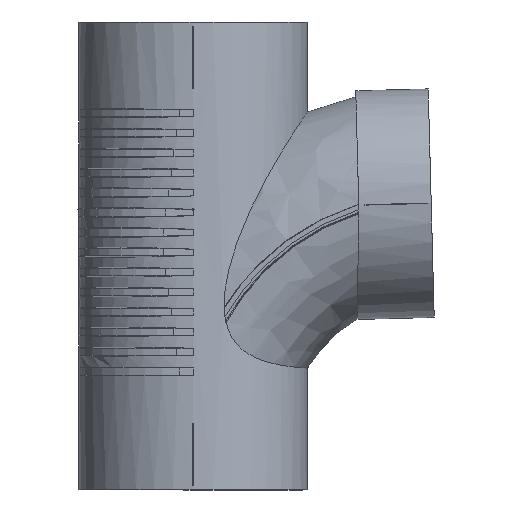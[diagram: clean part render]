
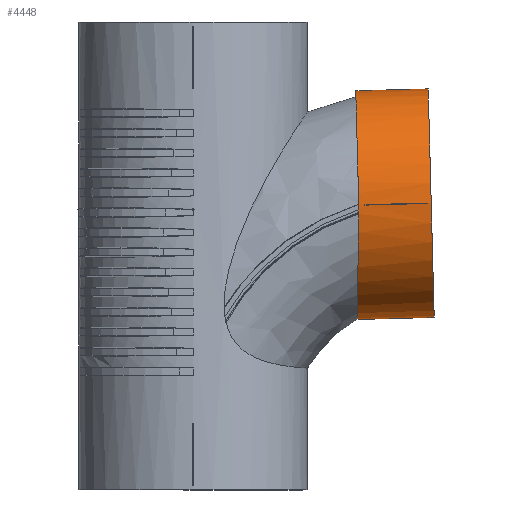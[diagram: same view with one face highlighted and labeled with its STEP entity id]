
A CAD part, front view. The second image highlights one B-rep face of the part: STEP entity #4448.
In plain terms, the highlighted cylindrical face has radius 55.2 mm (diameter 110.401 mm), a partial arc.
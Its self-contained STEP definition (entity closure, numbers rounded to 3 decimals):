
#357=FACE_BOUND('',#669,.T.);
#369=CYLINDRICAL_SURFACE('',#4692,55.2);
#433=FACE_OUTER_BOUND('',#668,.T.);
#668=EDGE_LOOP('',(#2787,#2788,#2789,#2790,#2791,#2792,#2793,#2794,#2795,
#2796,#2797,#2798,#2799,#2800,#2801));
#669=EDGE_LOOP('',(#2802,#2803,#2804,#2805,#2806,#2807));
#910=CIRCLE('',#4693,55.2);
#911=CIRCLE('',#4694,55.223);
#912=CIRCLE('',#4695,55.2);
#913=CIRCLE('',#4696,55.2);
#914=CIRCLE('',#4697,55.2);
#915=CIRCLE('',#4698,55.2);
#1081=LINE('',#5994,#1349);
#1082=LINE('',#5998,#1350);
#1083=LINE('',#6002,#1351);
#1087=LINE('',#6013,#1355);
#1090=LINE('',#6021,#1358);
#1091=LINE('',#6025,#1359);
#1092=LINE('',#6027,#1360);
#1093=LINE('',#6029,#1361);
#1094=LINE('',#6031,#1362);
#1095=LINE('',#6034,#1363);
#1096=LINE('',#6037,#1364);
#1097=LINE('',#6041,#1365);
#1098=LINE('',#6045,#1366);
#1099=LINE('',#6047,#1367);
#1100=LINE('',#6050,#1368);
#1349=VECTOR('',#5041,3.03);
#1350=VECTOR('',#5044,3.03);
#1351=VECTOR('',#5049,27.23);
#1355=VECTOR('',#5061,27.23);
#1358=VECTOR('',#5068,0.098);
#1359=VECTOR('',#5071,1.314);
#1360=VECTOR('',#5072,0.204);
#1361=VECTOR('',#5073,0.218);
#1362=VECTOR('',#5074,0.229);
#1363=VECTOR('',#5077,7.043);
#1364=VECTOR('',#5080,4.74);
#1365=VECTOR('',#5083,1.74);
#1366=VECTOR('',#5086,1.74);
#1367=VECTOR('',#5087,28.26);
#1368=VECTOR('',#5090,28.26);
#1616=VERTEX_POINT('',#5991);
#1617=VERTEX_POINT('',#5993);
#1618=VERTEX_POINT('',#5995);
#1619=VERTEX_POINT('',#5997);
#1620=VERTEX_POINT('',#6001);
#1623=VERTEX_POINT('',#6011);
#1625=VERTEX_POINT('',#6019);
#1626=VERTEX_POINT('',#6020);
#1627=VERTEX_POINT('',#6022);
#1628=VERTEX_POINT('',#6024);
#1629=VERTEX_POINT('',#6026);
#1630=VERTEX_POINT('',#6028);
#1631=VERTEX_POINT('',#6030);
#1632=VERTEX_POINT('',#6032);
#1633=VERTEX_POINT('',#6036);
#1634=VERTEX_POINT('',#6039);
#1635=VERTEX_POINT('',#6040);
#1636=VERTEX_POINT('',#6042);
#1637=VERTEX_POINT('',#6044);
#1638=VERTEX_POINT('',#6046);
#1639=VERTEX_POINT('',#6048);
#2075=EDGE_CURVE('',#1617,#1616,#1081,.T.);
#2077=EDGE_CURVE('',#1618,#1619,#1082,.T.);
#2079=EDGE_CURVE('',#1619,#1620,#1083,.T.);
#2085=EDGE_CURVE('',#1616,#1623,#1087,.T.);
#2088=EDGE_CURVE('',#1625,#1626,#1090,.T.);
#2089=EDGE_CURVE('',#1627,#1625,#910,.T.);
#2090=EDGE_CURVE('',#1628,#1627,#1091,.T.);
#2091=EDGE_CURVE('',#1628,#1629,#1092,.T.);
#2092=EDGE_CURVE('',#1629,#1630,#1093,.T.);
#2093=EDGE_CURVE('',#1631,#1630,#1094,.T.);
#2094=EDGE_CURVE('',#1632,#1631,#911,.T.);
#2095=EDGE_CURVE('',#1620,#1632,#1095,.T.);
#2096=EDGE_CURVE('',#1617,#1618,#912,.T.);
#2097=EDGE_CURVE('',#1623,#1633,#1096,.T.);
#2098=EDGE_CURVE('',#1626,#1633,#913,.T.);
#2099=EDGE_CURVE('',#1634,#1635,#1097,.T.);
#2100=EDGE_CURVE('',#1635,#1636,#914,.T.);
#2101=EDGE_CURVE('',#1636,#1637,#1098,.T.);
#2102=EDGE_CURVE('',#1638,#1637,#1099,.T.);
#2103=EDGE_CURVE('',#1639,#1638,#915,.T.);
#2104=EDGE_CURVE('',#1639,#1634,#1100,.T.);
#2787=ORIENTED_EDGE('',*,*,#2088,.F.);
#2788=ORIENTED_EDGE('',*,*,#2089,.F.);
#2789=ORIENTED_EDGE('',*,*,#2090,.F.);
#2790=ORIENTED_EDGE('',*,*,#2091,.T.);
#2791=ORIENTED_EDGE('',*,*,#2092,.T.);
#2792=ORIENTED_EDGE('',*,*,#2093,.F.);
#2793=ORIENTED_EDGE('',*,*,#2094,.F.);
#2794=ORIENTED_EDGE('',*,*,#2095,.F.);
#2795=ORIENTED_EDGE('',*,*,#2079,.F.);
#2796=ORIENTED_EDGE('',*,*,#2077,.F.);
#2797=ORIENTED_EDGE('',*,*,#2096,.F.);
#2798=ORIENTED_EDGE('',*,*,#2075,.T.);
#2799=ORIENTED_EDGE('',*,*,#2085,.T.);
#2800=ORIENTED_EDGE('',*,*,#2097,.T.);
#2801=ORIENTED_EDGE('',*,*,#2098,.F.);
#2802=ORIENTED_EDGE('',*,*,#2099,.T.);
#2803=ORIENTED_EDGE('',*,*,#2100,.T.);
#2804=ORIENTED_EDGE('',*,*,#2101,.T.);
#2805=ORIENTED_EDGE('',*,*,#2102,.F.);
#2806=ORIENTED_EDGE('',*,*,#2103,.F.);
#2807=ORIENTED_EDGE('',*,*,#2104,.T.);
#4448=ADVANCED_FACE('',(#433,#357),#369,.T.);
#4692=AXIS2_PLACEMENT_3D('',#6018,#5066,#5067);
#4693=AXIS2_PLACEMENT_3D('',#6023,#5069,#5070);
#4694=AXIS2_PLACEMENT_3D('',#6033,#5075,#5076);
#4695=AXIS2_PLACEMENT_3D('',#6035,#5078,#5079);
#4696=AXIS2_PLACEMENT_3D('',#6038,#5081,#5082);
#4697=AXIS2_PLACEMENT_3D('',#6043,#5084,#5085);
#4698=AXIS2_PLACEMENT_3D('',#6049,#5088,#5089);
#5041=DIRECTION('',(-1.,0.,-0.026));
#5044=DIRECTION('',(-1.,0.,-0.026));
#5049=DIRECTION('',(-1.,0.,-0.026));
#5061=DIRECTION('',(-1.,0.,-0.026));
#5066=DIRECTION('center_axis',(1.,0.,0.026));
#5067=DIRECTION('ref_axis',(-0.026,0.,
1.));
#5068=DIRECTION('',(-0.024,0.007,1.));
#5069=DIRECTION('center_axis',(-1.,0.,
-0.026));
#5070=DIRECTION('ref_axis',(-0.026,0.,1.));
#5071=DIRECTION('',(-0.026,-0.053,0.998));
#5072=DIRECTION('',(0.026,0.066,-0.997));
#5073=DIRECTION('',(0.015,0.07,-0.997));
#5074=DIRECTION('',(0.007,-0.074,0.997));
#5075=DIRECTION('center_axis',(-1.,0.,
0.019));
#5076=DIRECTION('ref_axis',(-0.019,0.,-1.));
#5077=DIRECTION('',(-1.,0.,-0.026));
#5078=DIRECTION('center_axis',(1.,0.,
0.026));
#5079=DIRECTION('ref_axis',(-0.026,0.,
1.));
#5080=DIRECTION('',(-1.,0.,-0.026));
#5081=DIRECTION('center_axis',(-1.,0.,
-0.026));
#5082=DIRECTION('ref_axis',(-0.026,0.,1.));
#5083=DIRECTION('',(-1.,0.,-0.026));
#5084=DIRECTION('center_axis',(-1.,0.,
-0.026));
#5085=DIRECTION('ref_axis',(-0.026,0.,1.));
#5086=DIRECTION('',(1.,0.,0.026));
#5087=DIRECTION('',(-1.,0.,-0.026));
#5088=DIRECTION('center_axis',(-1.,0.,
-0.026));
#5089=DIRECTION('ref_axis',(-0.026,0.,1.));
#5090=DIRECTION('',(-1.,0.,-0.026));
#5991=CARTESIAN_POINT('',(110.487,0.,193.612));
#5993=CARTESIAN_POINT('',(113.516,0.,193.691));
#5994=CARTESIAN_POINT('',(113.516,0.,193.691));
#5995=CARTESIAN_POINT('',(116.406,0.,83.329));
#5997=CARTESIAN_POINT('',(113.377,0.,83.25));
#5998=CARTESIAN_POINT('',(116.406,0.,83.329));
#6001=CARTESIAN_POINT('',(86.156,0.,82.537));
#6002=CARTESIAN_POINT('',(113.377,0.,83.25));
#6011=CARTESIAN_POINT('',(83.266,0.,192.899));
#6013=CARTESIAN_POINT('',(110.487,0.,193.612));
#6018=CARTESIAN_POINT('Origin',(111.932,0.,138.431));
#6019=CARTESIAN_POINT('',(79.965,-55.197,137.9));
#6020=CARTESIAN_POINT('',(79.962,-55.196,137.997));
#6021=CARTESIAN_POINT('',(79.965,-55.197,137.9));
#6022=CARTESIAN_POINT('',(80.032,-55.154,135.332));
#6023=CARTESIAN_POINT('Origin',(79.973,0.,137.594));
#6024=CARTESIAN_POINT('',(80.066,-55.084,134.02));
#6025=CARTESIAN_POINT('',(80.066,-55.084,134.02));
#6026=CARTESIAN_POINT('',(80.071,-55.071,133.817));
#6027=CARTESIAN_POINT('',(80.066,-55.084,134.02));
#6028=CARTESIAN_POINT('',(80.075,-55.055,133.599));
#6029=CARTESIAN_POINT('',(80.071,-55.071,133.817));
#6030=CARTESIAN_POINT('',(80.073,-55.038,133.371));
#6031=CARTESIAN_POINT('',(80.073,-55.038,133.371));
#6032=CARTESIAN_POINT('',(79.115,0.,82.353));
#6033=CARTESIAN_POINT('Origin',(80.152,0.025,137.566));
#6034=CARTESIAN_POINT('',(86.156,0.,82.537));
#6035=CARTESIAN_POINT('Origin',(114.961,0.,138.51));
#6036=CARTESIAN_POINT('',(78.528,0.,192.775));
#6037=CARTESIAN_POINT('',(83.266,0.,192.899));
#6038=CARTESIAN_POINT('Origin',(79.973,0.,137.594));
#6039=CARTESIAN_POINT('',(84.714,-55.2,137.618));
#6040=CARTESIAN_POINT('',(82.974,-55.2,137.573));
#6041=CARTESIAN_POINT('',(97.468,-55.2,137.952));
#6042=CARTESIAN_POINT('',(82.969,-55.2,137.773));
#6043=CARTESIAN_POINT('Origin',(82.972,0.,137.672));
#6044=CARTESIAN_POINT('',(84.708,-55.2,137.818));
#6045=CARTESIAN_POINT('',(97.463,-55.2,138.152));
#6046=CARTESIAN_POINT('',(112.959,-55.2,138.558));
#6047=CARTESIAN_POINT('',(97.463,-55.2,138.152));
#6048=CARTESIAN_POINT('',(112.964,-55.2,138.358));
#6049=CARTESIAN_POINT('Origin',(112.961,0.,138.458));
#6050=CARTESIAN_POINT('',(97.468,-55.2,137.952));
